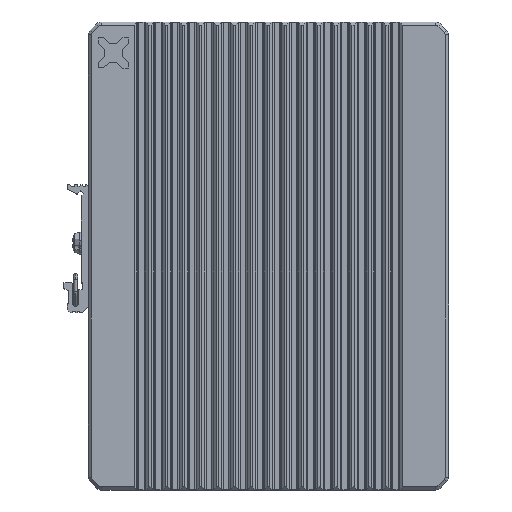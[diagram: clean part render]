
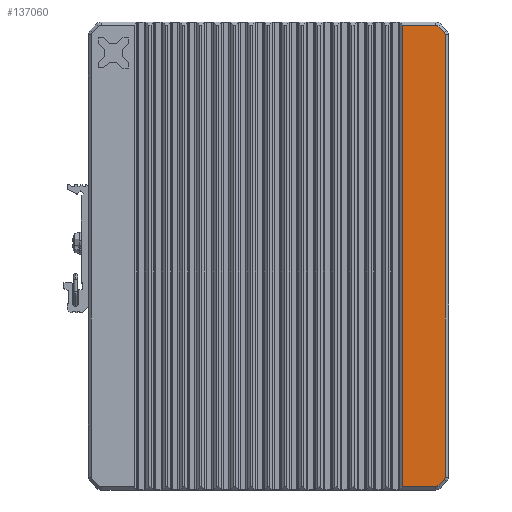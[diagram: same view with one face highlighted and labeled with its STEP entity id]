
A CAD part, top view. The second image highlights one B-rep face of the part: STEP entity #137060.
In plain terms, the highlighted planar face has unit normal (0, 0, 1).
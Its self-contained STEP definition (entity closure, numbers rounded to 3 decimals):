
#1725 = EDGE_CURVE ( 'NONE', #25540, #175696, #127316, .T. ) ;
#4723 = DIRECTION ( 'NONE',  ( -1., 0., 0. ) ) ;
#6952 = LINE ( 'NONE', #155369, #142383 ) ;
#6975 = EDGE_CURVE ( 'NONE', #43199, #190367, #71784, .T. ) ;
#14433 = ORIENTED_EDGE ( 'NONE', *, *, #213280, .T. ) ;
#14950 = EDGE_CURVE ( 'NONE', #266957, #89305, #285061, .T. ) ;
#21185 = EDGE_CURVE ( 'NONE', #231644, #25540, #6952, .T. ) ;
#23341 = CARTESIAN_POINT ( 'NONE',  ( 49.947, -85.705, 7. ) ) ;
#25540 = VERTEX_POINT ( 'NONE', #122052 ) ;
#40107 = AXIS2_PLACEMENT_3D ( 'NONE', #192868, #111278, #316315 ) ;
#41297 = CARTESIAN_POINT ( 'NONE',  ( 65.825, 82.351, 7. ) ) ;
#43199 = VERTEX_POINT ( 'NONE', #276801 ) ;
#50215 = CARTESIAN_POINT ( 'NONE',  ( 0., 0.12, 7. ) ) ;
#57008 = DIRECTION ( 'NONE',  ( 0.707, 0.707, 0. ) ) ;
#58021 = LINE ( 'NONE', #159674, #116213 ) ;
#61942 = CARTESIAN_POINT ( 'NONE',  ( 65.825, -82.111, 7. ) ) ;
#71784 = LINE ( 'NONE', #23341, #283958 ) ;
#73073 = EDGE_LOOP ( 'NONE', ( #176791, #230980, #14433, #255744, #321555, #296157, #274234, #209289, #291757, #138755 ) ) ;
#75513 = DIRECTION ( 'NONE',  ( -0.707, 0.707, 0. ) ) ;
#89305 = VERTEX_POINT ( 'NONE', #272553 ) ;
#98257 = VECTOR ( 'NONE', #75513, 1000. ) ;
#100264 = FACE_OUTER_BOUND ( 'NONE', #73073, .T. ) ;
#102823 = EDGE_CURVE ( 'NONE', #103913, #266957, #227291, .T. ) ;
#103913 = VERTEX_POINT ( 'NONE', #221152 ) ;
#109211 = CARTESIAN_POINT ( 'NONE',  ( 62.231, -85.705, 7. ) ) ;
#111278 = DIRECTION ( 'NONE',  ( 0., 0., 1. ) ) ;
#116213 = VECTOR ( 'NONE', #4723, 1000. ) ;
#122052 = CARTESIAN_POINT ( 'NONE',  ( 65.474, -82.959, 7. ) ) ;
#127316 = CIRCLE ( 'NONE', #185882, 1.2 ) ;
#133714 = CARTESIAN_POINT ( 'NONE',  ( 65.825, 82.351, 7. ) ) ;
#137060 = ADVANCED_FACE ( 'NONE', ( #100264 ), #258566, .T. ) ;
#138755 = ORIENTED_EDGE ( 'NONE', *, *, #14950, .T. ) ;
#141615 = DIRECTION ( 'NONE',  ( 0., 1., 0. ) ) ;
#142262 = CARTESIAN_POINT ( 'NONE',  ( 63.079, 85.594, 7. ) ) ;
#142383 = VECTOR ( 'NONE', #57008, 1000. ) ;
#143685 = EDGE_CURVE ( 'NONE', #89305, #43199, #58021, .T. ) ;
#143749 = DIRECTION ( 'NONE',  ( 0., 1., 0. ) ) ;
#147087 = DIRECTION ( 'NONE',  ( 0., 0., 1. ) ) ;
#151897 = DIRECTION ( 'NONE',  ( 0., 1., 0. ) ) ;
#153465 = VERTEX_POINT ( 'NONE', #109211 ) ;
#155369 = CARTESIAN_POINT ( 'NONE',  ( 65.474, -82.959, 7. ) ) ;
#158983 = LINE ( 'NONE', #235699, #224990 ) ;
#159674 = CARTESIAN_POINT ( 'NONE',  ( 48.99, 85.945, 7. ) ) ;
#163453 = CARTESIAN_POINT ( 'NONE',  ( 49.947, -85.705, 7. ) ) ;
#165243 = DIRECTION ( 'NONE',  ( 0., 1., 0. ) ) ;
#175089 = AXIS2_PLACEMENT_3D ( 'NONE', #317005, #190301, #165243 ) ;
#175696 = VERTEX_POINT ( 'NONE', #61942 ) ;
#176791 = ORIENTED_EDGE ( 'NONE', *, *, #143685, .T. ) ;
#180204 = DIRECTION ( 'NONE',  ( 0., 0., 1. ) ) ;
#185882 = AXIS2_PLACEMENT_3D ( 'NONE', #295578, #147087, #143749 ) ;
#190301 = DIRECTION ( 'NONE',  ( 0., 0., 1. ) ) ;
#190367 = VERTEX_POINT ( 'NONE', #163453 ) ;
#192868 = CARTESIAN_POINT ( 'NONE',  ( 62.231, 84.745, 7. ) ) ;
#193006 = DIRECTION ( 'NONE',  ( 0., 1., 0. ) ) ;
#202257 = CARTESIAN_POINT ( 'NONE',  ( 63.079, 85.594, 7. ) ) ;
#209289 = ORIENTED_EDGE ( 'NONE', *, *, #285411, .T. ) ;
#213280 = EDGE_CURVE ( 'NONE', #190367, #153465, #158983, .T. ) ;
#215052 = AXIS2_PLACEMENT_3D ( 'NONE', #50215, #180204, #151897 ) ;
#217703 = CIRCLE ( 'NONE', #175089, 1.2 ) ;
#221152 = CARTESIAN_POINT ( 'NONE',  ( 65.474, 83.199, 7. ) ) ;
#224907 = CARTESIAN_POINT ( 'NONE',  ( 64.625, 82.351, 7. ) ) ;
#224990 = VECTOR ( 'NONE', #230790, 1000. ) ;
#227291 = LINE ( 'NONE', #202257, #98257 ) ;
#230790 = DIRECTION ( 'NONE',  ( 1., 0., 0. ) ) ;
#230980 = ORIENTED_EDGE ( 'NONE', *, *, #6975, .T. ) ;
#231644 = VERTEX_POINT ( 'NONE', #277706 ) ;
#235699 = CARTESIAN_POINT ( 'NONE',  ( 62.231, -85.705, 7. ) ) ;
#242417 = AXIS2_PLACEMENT_3D ( 'NONE', #224907, #243367, #141615 ) ;
#243367 = DIRECTION ( 'NONE',  ( 0., 0., 1. ) ) ;
#248556 = DIRECTION ( 'NONE',  ( 0., -1., 0. ) ) ;
#253766 = EDGE_CURVE ( 'NONE', #153465, #231644, #217703, .T. ) ;
#255744 = ORIENTED_EDGE ( 'NONE', *, *, #253766, .T. ) ;
#258566 = PLANE ( 'NONE',  #215052 ) ;
#266957 = VERTEX_POINT ( 'NONE', #142262 ) ;
#269160 = EDGE_CURVE ( 'NONE', #175696, #316031, #298070, .T. ) ;
#272553 = CARTESIAN_POINT ( 'NONE',  ( 62.231, 85.945, 7. ) ) ;
#274234 = ORIENTED_EDGE ( 'NONE', *, *, #269160, .T. ) ;
#276801 = CARTESIAN_POINT ( 'NONE',  ( 49.947, 85.945, 7. ) ) ;
#277706 = CARTESIAN_POINT ( 'NONE',  ( 63.079, -85.354, 7. ) ) ;
#283958 = VECTOR ( 'NONE', #248556, 1000. ) ;
#285061 = CIRCLE ( 'NONE', #40107, 1.2 ) ;
#285411 = EDGE_CURVE ( 'NONE', #316031, #103913, #317617, .T. ) ;
#291757 = ORIENTED_EDGE ( 'NONE', *, *, #102823, .T. ) ;
#295578 = CARTESIAN_POINT ( 'NONE',  ( 64.625, -82.111, 7. ) ) ;
#296157 = ORIENTED_EDGE ( 'NONE', *, *, #1725, .T. ) ;
#298070 = LINE ( 'NONE', #41297, #300440 ) ;
#300440 = VECTOR ( 'NONE', #193006, 1000. ) ;
#316031 = VERTEX_POINT ( 'NONE', #133714 ) ;
#316315 = DIRECTION ( 'NONE',  ( 0., 1., 0. ) ) ;
#317005 = CARTESIAN_POINT ( 'NONE',  ( 62.231, -84.505, 7. ) ) ;
#317617 = CIRCLE ( 'NONE', #242417, 1.2 ) ;
#321555 = ORIENTED_EDGE ( 'NONE', *, *, #21185, .T. ) ;
